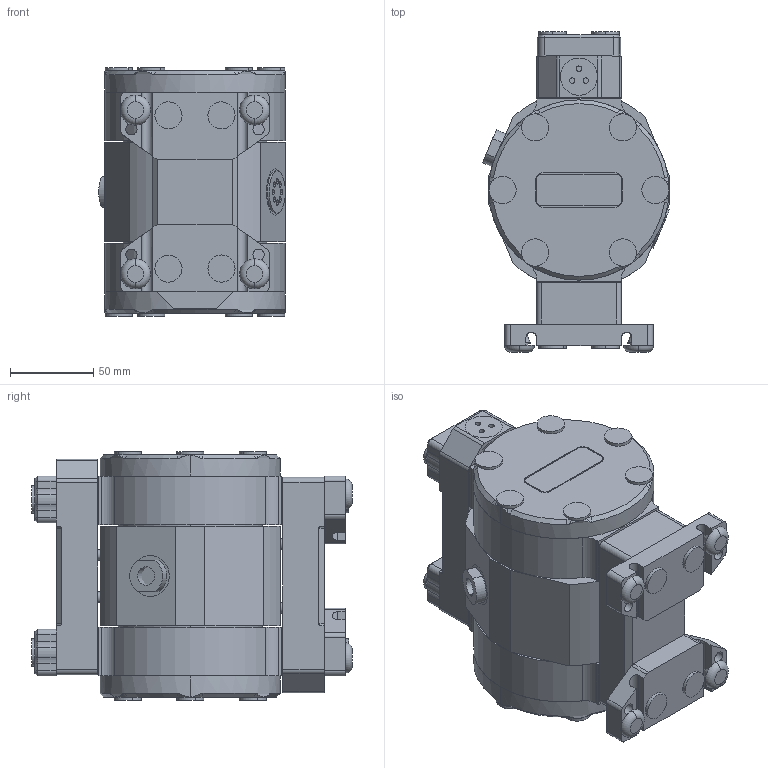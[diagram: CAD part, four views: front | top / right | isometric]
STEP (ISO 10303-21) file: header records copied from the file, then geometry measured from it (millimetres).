
FILE_DESCRIPTION (( 'STEP AP214' ), '1' );
FILE_NAME ('PSD06.STEP', '2014-01-06T17:22:02', ( '' ), ( '' ), 'SwSTEP 2.0', 'SolidWorks 2012', '' );
FILE_SCHEMA (( 'AUTOMOTIVE_DESIGN' ));
Length unit declared in the file: inch
Products named in the file (1): PSD06
Bounding box: 111.81 x 191.9 x 148.87 mm (x, y, z)
Volume: 1863863.1 mm3; surface area: 274395.3 mm2
Topology: 51 solids, 51 shells, 730 faces, 1580 edges, 1022 vertices
Faces by surface type: plane 282, cylinder 248, torus 100, cone 100
Entity records: 21028 total; most frequent: DIRECTION 3836, CARTESIAN_POINT 3745, ORIENTED_EDGE 3160, AXIS2_PLACEMENT_3D 1585, EDGE_CURVE 1580, VERTEX_POINT 1022, CIRCLE 854, EDGE_LOOP 810
